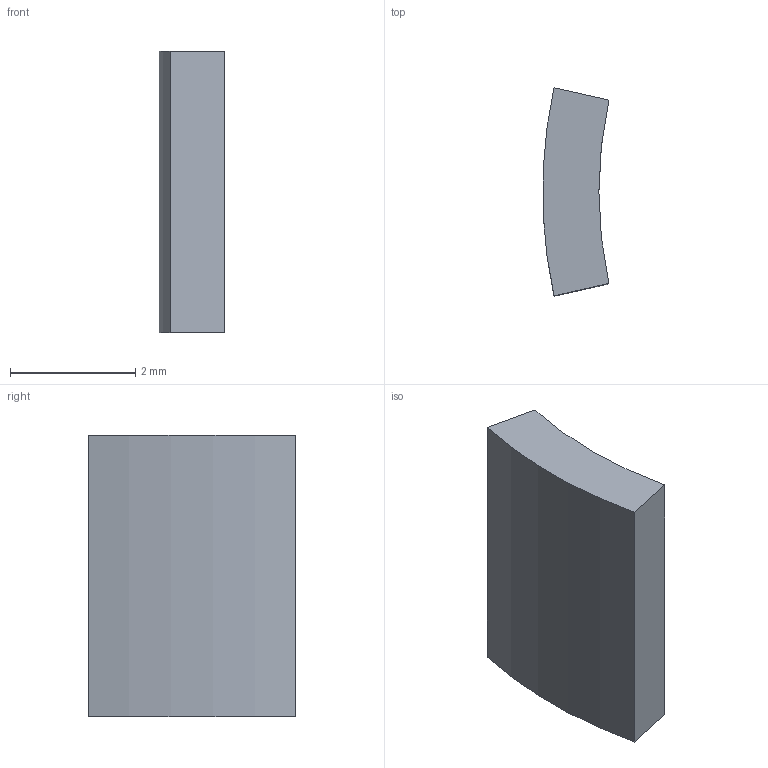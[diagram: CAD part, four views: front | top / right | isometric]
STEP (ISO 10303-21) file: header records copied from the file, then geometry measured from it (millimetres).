
FILE_DESCRIPTION(('Open CASCADE Model'),'2;1');
FILE_NAME('Open CASCADE Shape Model','2026-10-24T17:46:06',('Author'),( 'Open CASCADE'),'Open CASCADE STEP processor 8.0','Open CASCADE 8.0' ,'Unknown');
FILE_SCHEMA(('AUTOMOTIVE_DESIGN { 1 0 10303 214 1 1 1 1 }'));
Length unit declared in the file: millimetre
Products named in the file (1): Open CASCADE STEP translator 8.0 12
Bounding box: 1.05 x 3.33 x 4.5 mm (x, y, z)
Volume: 12.8 mm3; surface area: 42.2 mm2
Topology: 1 solids, 1 shells, 6 faces, 12 edges, 8 vertices
Faces by surface type: plane 4, cylinder 2
Entity records: 310 total; most frequent: CARTESIAN_POINT 67, DIRECTION 38, ORIENTED_EDGE 24, PCURVE 24, DEFINITIONAL_REPRESENTATION 24, B_SPLINE_CURVE_WITH_KNOTS 16, EDGE_CURVE 12, SURFACE_CURVE 12
